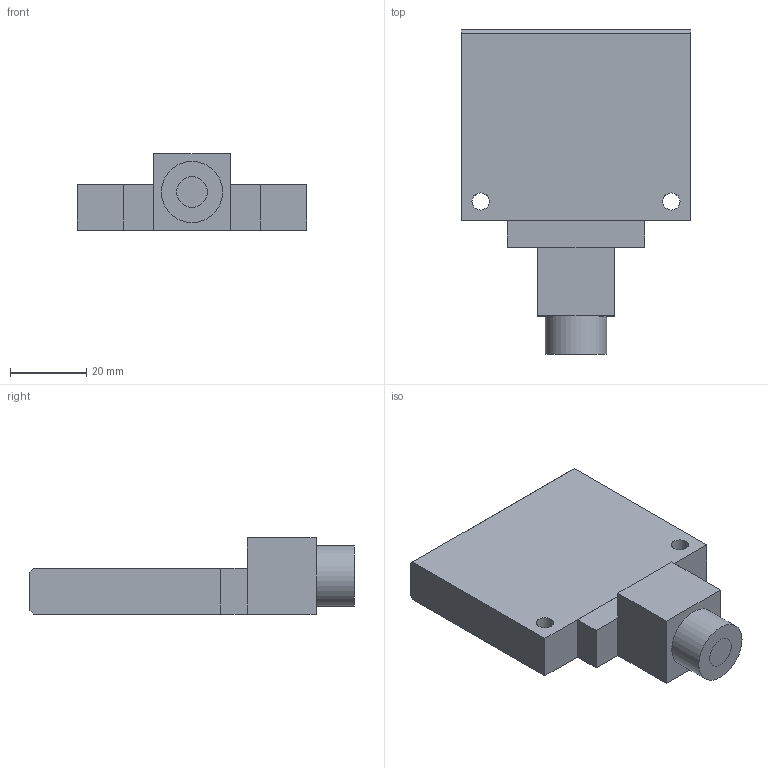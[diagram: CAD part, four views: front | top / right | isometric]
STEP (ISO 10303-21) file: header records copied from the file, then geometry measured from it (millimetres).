
FILE_DESCRIPTION(/* description */ (''),/* implementation_level */ '2;1');
FILE_NAME(/* name */ '',/* time_stamp */ '2023-02-24T17:41:22+09:00',/* author */ (''),/* organization */ (''),/* preprocessor_version */ 'ST-DEVELOPER v19.2',/* originating_system */ 'Autodesk Translation Framework v11.17.0.187',/* authorisation */ '');
FILE_SCHEMA (('AUTOMOTIVE_DESIGN { 1 0 10303 214 3 1 1 }'));
Length unit declared in the file: millimetre
Products named in the file (1): LS50×1.0 共通照射部
Bounding box: 60 x 85 x 20 mm (x, y, z)
Volume: 47792.9 mm3; surface area: 14666.8 mm2
Topology: 5 solids, 5 shells, 40 faces, 85 edges, 56 vertices
Faces by surface type: plane 35, cylinder 5
Full cylindrical faces by diameter (mm): 4.5 x2, 8 x2, 16 x1
Entity records: 1104 total; most frequent: CARTESIAN_POINT 182, DIRECTION 177, ORIENTED_EDGE 170, EDGE_CURVE 85, LINE 75, VECTOR 75, VERTEX_POINT 56, AXIS2_PLACEMENT_3D 51
